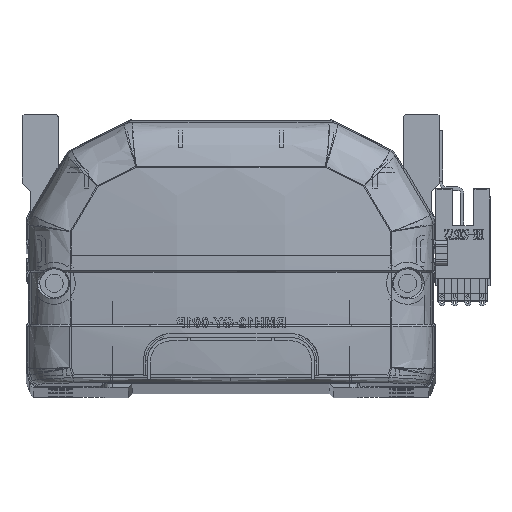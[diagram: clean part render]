
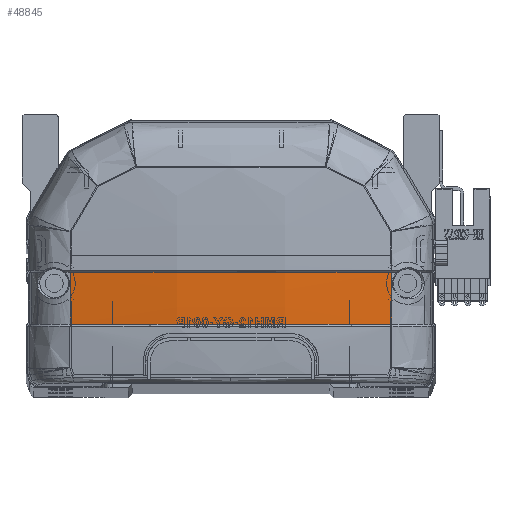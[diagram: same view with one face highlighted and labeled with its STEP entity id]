
A CAD part, top view. The second image highlights one B-rep face of the part: STEP entity #48845.
In plain terms, the highlighted free-form (B-spline) face has degree [3, 3] with [4, 4] control points.
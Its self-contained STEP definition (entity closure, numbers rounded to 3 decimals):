
#978 = CARTESIAN_POINT ( 'NONE',  ( 13.598, 15.499, -10.032 ) ) ;
#1062 = CARTESIAN_POINT ( 'NONE',  ( 26.761, 15.83, -7.945 ) ) ;
#1089 = EDGE_CURVE ( 'NONE', #29790, #50991, #29039, .T. ) ;
#1181 = VERTEX_POINT ( 'NONE', #1795 ) ;
#1466 = VERTEX_POINT ( 'NONE', #45784 ) ;
#1568 = CARTESIAN_POINT ( 'NONE',  ( 13.38, 15.83, -8.984 ) ) ;
#1795 = CARTESIAN_POINT ( 'NONE',  ( 39.985, 15.83, -5.879 ) ) ;
#2115 = CARTESIAN_POINT ( 'NONE',  ( 39.963, 28.706, -6.372 ) ) ;
#4724 = CARTESIAN_POINT ( 'NONE',  ( 13.375, 28.707, -9.468 ) ) ;
#4766 = EDGE_CURVE ( 'NONE', #29790, #1466, #50432, .T. ) ;
#5534 = CARTESIAN_POINT ( 'NONE',  ( -13.384, 15.83, -8.724 ) ) ;
#5901 =( BOUNDED_SURFACE ( )  B_SPLINE_SURFACE ( 3, 3, ( 
 ( #37431, #28737, #48586, #13480 ),
 ( #978, #32734, #49271, #40741 ),
 ( #20948, #28915, #29774, #46116 ),
 ( #6143, #25791, #34279, #50121 ) ),
 .UNSPECIFIED., .F., .F., .F. ) 
 B_SPLINE_SURFACE_WITH_KNOTS ( ( 4, 4 ),
 ( 4, 4 ),
 ( 0., 1. ),
 ( 0., 1. ),
 .UNSPECIFIED. ) 
 GEOMETRIC_REPRESENTATION_ITEM ( )  RATIONAL_B_SPLINE_SURFACE ( (
 ( 1., 1., 1., 1.),
 ( 0.992, 0.992, 0.992, 0.992),
 ( 0.992, 0.992, 0.992, 0.992),
 ( 1., 1., 1., 1.) ) ) 
 REPRESENTATION_ITEM ( '' )  SURFACE ( )  );
#6143 = CARTESIAN_POINT ( 'NONE',  ( -40.461, 15.757, -5.8 ) ) ;
#6982 = CARTESIAN_POINT ( 'NONE',  ( -39.973, 20.118, -6.142 ) ) ;
#7977 = CARTESIAN_POINT ( 'NONE',  ( -39.963, 28.706, -6.372 ) ) ;
#9529 = FACE_OUTER_BOUND ( 'NONE', #42305, .T. ) ;
#12551 = CARTESIAN_POINT ( 'NONE',  ( 26.749, 28.706, -8.432 ) ) ;
#13480 = CARTESIAN_POINT ( 'NONE',  ( 40.461, 28.832, -6.296 ) ) ;
#16877 = CARTESIAN_POINT ( 'NONE',  ( 39.985, 15.83, -5.879 ) ) ;
#19376 = ORIENTED_EDGE ( 'NONE', *, *, #36492, .F. ) ;
#20552 = CARTESIAN_POINT ( 'NONE',  ( 39.963, 28.706, -6.372 ) ) ;
#20948 = CARTESIAN_POINT ( 'NONE',  ( -13.598, 15.499, -10.032 ) ) ;
#21346 = ORIENTED_EDGE ( 'NONE', *, *, #46268, .T. ) ;
#22636 = CARTESIAN_POINT ( 'NONE',  ( -39.963, 28.706, -6.372 ) ) ;
#24716 = CARTESIAN_POINT ( 'NONE',  ( -39.963, 28.706, -6.372 ) ) ;
#25513 = CARTESIAN_POINT ( 'NONE',  ( -33.365, 15.83, -6.848 ) ) ;
#25791 = CARTESIAN_POINT ( 'NONE',  ( -40.461, 20.111, -6.066 ) ) ;
#28737 = CARTESIAN_POINT ( 'NONE',  ( 40.461, 20.111, -6.066 ) ) ;
#28915 = CARTESIAN_POINT ( 'NONE',  ( -13.598, 19.918, -10.302 ) ) ;
#29039 = B_SPLINE_CURVE_WITH_KNOTS ( 'NONE', 3,
 ( #24716, #36344, #48708, #4724, #12551, #20552 ),
 .UNSPECIFIED., .F., .F.,
 ( 4, 2, 4 ),
 ( 0., 0.5, 1. ),
 .UNSPECIFIED. ) ;
#29322 = CARTESIAN_POINT ( 'NONE',  ( -6.692, 15.83, -8.984 ) ) ;
#29774 = CARTESIAN_POINT ( 'NONE',  ( -13.598, 24.342, -10.47 ) ) ;
#29790 = VERTEX_POINT ( 'NONE', #7977 ) ;
#32734 = CARTESIAN_POINT ( 'NONE',  ( 13.598, 19.918, -10.302 ) ) ;
#33331 = CARTESIAN_POINT ( 'NONE',  ( -39.985, 15.83, -5.879 ) ) ;
#33830 = CARTESIAN_POINT ( 'NONE',  ( 39.985, 15.83, -5.879 ) ) ;
#34279 = CARTESIAN_POINT ( 'NONE',  ( -40.461, 24.47, -6.231 ) ) ;
#36344 = CARTESIAN_POINT ( 'NONE',  ( -26.748, 28.706, -8.432 ) ) ;
#36492 = EDGE_CURVE ( 'NONE', #1181, #1466, #46730, .T. ) ;
#37431 = CARTESIAN_POINT ( 'NONE',  ( 40.461, 15.757, -5.8 ) ) ;
#39887 = B_SPLINE_CURVE_WITH_KNOTS ( 'NONE', 3,
 ( #33830, #49849, #45500, #50197 ),
 .UNSPECIFIED., .F., .F.,
 ( 4, 4 ),
 ( 0., 1. ),
 .UNSPECIFIED. ) ;
#40741 = CARTESIAN_POINT ( 'NONE',  ( 13.598, 28.769, -10.535 ) ) ;
#41141 = CARTESIAN_POINT ( 'NONE',  ( -36.679, 15.83, -6.395 ) ) ;
#41313 = CARTESIAN_POINT ( 'NONE',  ( -23.389, 15.83, -7.947 ) ) ;
#42292 = CARTESIAN_POINT ( 'NONE',  ( -39.966, 24.412, -6.306 ) ) ;
#42305 = EDGE_LOOP ( 'NONE', ( #21346, #47663, #48509, #19376 ) ) ;
#45500 = CARTESIAN_POINT ( 'NONE',  ( 39.966, 24.413, -6.306 ) ) ;
#45784 = CARTESIAN_POINT ( 'NONE',  ( -39.985, 15.83, -5.879 ) ) ;
#46116 = CARTESIAN_POINT ( 'NONE',  ( -13.598, 28.769, -10.535 ) ) ;
#46268 = EDGE_CURVE ( 'NONE', #1181, #50991, #39887, .T. ) ;
#46640 = CARTESIAN_POINT ( 'NONE',  ( -39.985, 15.83, -5.879 ) ) ;
#46730 = B_SPLINE_CURVE_WITH_KNOTS ( 'NONE', 3,
 ( #16877, #1062, #1568, #29322, #5534, #41313, #49346, #25513, #41141, #33331 ),
 .UNSPECIFIED., .F., .F.,
 ( 4, 2, 2, 2, 4 ),
 ( 0., 0.04, 0.06, 0.07, 0.08 ),
 .UNSPECIFIED. ) ;
#47663 = ORIENTED_EDGE ( 'NONE', *, *, #1089, .F. ) ;
#48509 = ORIENTED_EDGE ( 'NONE', *, *, #4766, .T. ) ;
#48586 = CARTESIAN_POINT ( 'NONE',  ( 40.461, 24.47, -6.231 ) ) ;
#48708 = CARTESIAN_POINT ( 'NONE',  ( -13.373, 28.707, -9.468 ) ) ;
#48845 = ADVANCED_FACE ( 'NONE', ( #9529 ), #5901, .F. ) ;
#49271 = CARTESIAN_POINT ( 'NONE',  ( 13.598, 24.342, -10.47 ) ) ;
#49346 = CARTESIAN_POINT ( 'NONE',  ( -26.721, 15.83, -7.624 ) ) ;
#49849 = CARTESIAN_POINT ( 'NONE',  ( 39.973, 20.12, -6.142 ) ) ;
#50121 = CARTESIAN_POINT ( 'NONE',  ( -40.461, 28.832, -6.296 ) ) ;
#50197 = CARTESIAN_POINT ( 'NONE',  ( 39.963, 28.706, -6.372 ) ) ;
#50432 = B_SPLINE_CURVE_WITH_KNOTS ( 'NONE', 3,
 ( #22636, #42292, #6982, #46640 ),
 .UNSPECIFIED., .F., .F.,
 ( 4, 4 ),
 ( 0., 1. ),
 .UNSPECIFIED. ) ;
#50991 = VERTEX_POINT ( 'NONE', #2115 ) ;
